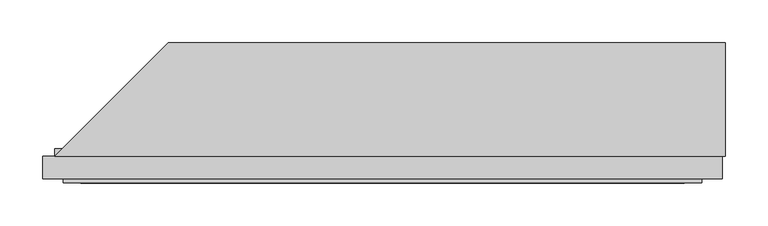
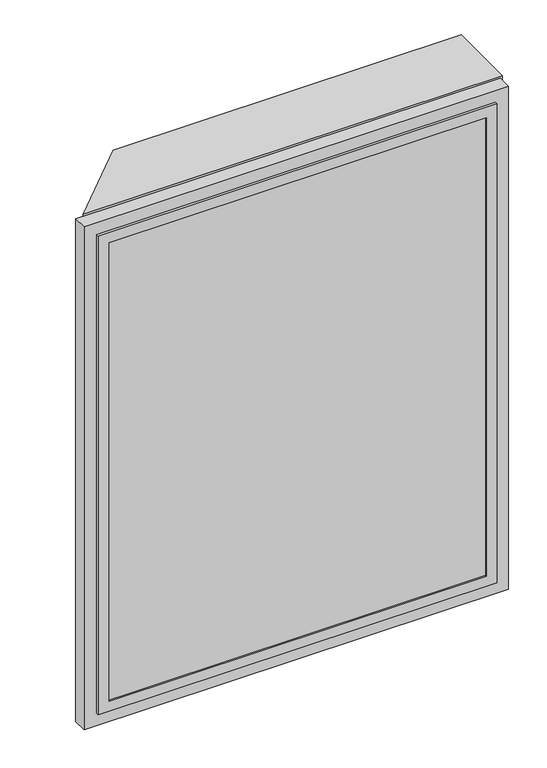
"""IFC4 building model written with IfcOpenShell, lengths in millimetres: plate geometry, SCISSOR PANEL : SCISSOR PANEL."""

from ifc_helpers import new_model, si_unit, frame, origin, place, context, project, spatial, polyline, outline, extrude, faceted_brep, source, transform, mapped, element, save


def plate_240e5154(model_context):
    return source(origin(), model_context, "Body", "SolidModel", [
        faceted_brep([(400.0, -132.5, 1000.0), (-382.5, -132.5, 1000.0), (-382.5, -132.5, 982.5), (382.5, -132.5, 982.5), (382.5, -132.5, 17.5), (-382.5, -132.5, 17.5), (-382.5, -132.5, 0.0), (400.0, -132.5, 0.0), (382.5, 0.0, 17.5), (382.5, 0.0, 982.5), (-250.0, 0.0, 0.0), (-250.0, 0.0, 17.5), (-250.0, 0.0, 982.5), (-250.0, 0.0, 1000.0), (400.0, 0.0, 0.0), (400.0, 0.0, 1000.0)], [[[0, 1, 2, 3, 4, 5, 6, 7]], [[8, 4, 3, 9]], [[10, 6, 5, 11]], [[12, 2, 1, 13]], [[14, 10, 11, 8, 9, 12, 13, 15]], [[7, 6, 10, 14]], [[15, 0, 7, 14]], [[15, 13, 1, 0]], [[2, 12, 9, 3]], [[4, 8, 11, 5]]]),
        extrude(outline(polyline([(-369.5, -160.5), (-369.5, -135.5), (369.5, -135.5), (369.5, -160.5), (-369.5, -160.5)])), frame((0.0, 0.0, 30.5), z_axis=(0.0, 0.0, 1.0), x_axis=(1.0, 0.0, 0.0)), (0.0, 0.0, 1.0), 939.0),
        faceted_brep([(-352.5, -135.5, 952.5), (-352.5, -135.5, 47.5), (-352.5, -132.5, 47.5), (-352.5, -132.5, 952.5), (-369.5, -160.5, 969.5), (-369.5, -160.5, 30.5), (-369.5, -135.5, 30.5), (-369.5, -135.5, 969.5), (-352.5, -163.5, 952.5), (-352.5, -163.5, 47.5), (-352.5, -160.5, 47.5), (-352.5, -160.5, 952.5), (-372.5, -132.5, 972.5), (-372.5, -132.5, 27.5), (-372.5, -163.5, 27.5), (-372.5, -163.5, 972.5), (352.5, -135.5, 47.5), (352.5, -132.5, 47.5), (369.5, -160.5, 30.5), (369.5, -135.5, 30.5), (352.5, -163.5, 47.5), (352.5, -160.5, 47.5), (372.5, -132.5, 27.5), (372.5, -163.5, 27.5), (352.5, -135.5, 952.5), (352.5, -132.5, 952.5), (369.5, -160.5, 969.5), (369.5, -135.5, 969.5), (352.5, -163.5, 952.5), (352.5, -160.5, 952.5), (372.5, -132.5, 972.5), (372.5, -163.5, 972.5)], [[[0, 1, 2, 3]], [[4, 5, 6, 7]], [[8, 9, 10, 11]], [[12, 13, 14, 15]], [[1, 16, 17, 2]], [[5, 18, 19, 6]], [[9, 20, 21, 10]], [[13, 22, 23, 14]], [[16, 24, 25, 17]], [[18, 26, 27, 19]], [[20, 28, 29, 21]], [[22, 30, 31, 23]], [[13, 12, 30, 22], [3, 2, 17, 25]], [[24, 0, 3, 25]], [[7, 6, 19, 27], [1, 0, 24, 16]], [[26, 4, 7, 27]], [[5, 4, 26, 18], [11, 10, 21, 29]], [[28, 8, 11, 29]], [[15, 14, 23, 31], [9, 8, 28, 20]], [[30, 12, 15, 31]]]),
        faceted_brep([(-396.5, -132.5, 996.5), (-396.5, -132.5, 3.5), (-396.5, -158.75, 3.5), (-396.5, -158.75, 996.5), (-389.5, -150.0, 989.5), (-389.5, -150.0, 10.5), (-389.5, -132.5, 10.5), (-389.5, -132.5, 989.5), (-382.5, -123.75, 982.5), (-382.5, -123.75, 17.5), (-382.5, -150.0, 17.5), (-382.5, -150.0, 982.5), (-372.5, -158.75, 972.5), (-372.5, -158.75, 27.5), (-372.5, -123.75, 27.5), (-372.5, -123.75, 972.5), (396.5, -132.5, 3.5), (396.5, -158.75, 3.5), (389.5, -150.0, 10.5), (389.5, -132.5, 10.5), (382.5, -123.75, 17.5), (382.5, -150.0, 17.5), (372.5, -158.75, 27.5), (372.5, -123.75, 27.5), (396.5, -132.5, 996.5), (396.5, -158.75, 996.5), (389.5, -150.0, 989.5), (389.5, -132.5, 989.5), (382.5, -123.75, 982.5), (382.5, -150.0, 982.5), (372.5, -158.75, 972.5), (372.5, -123.75, 972.5)], [[[0, 1, 2, 3]], [[4, 5, 6, 7]], [[8, 9, 10, 11]], [[12, 13, 14, 15]], [[1, 16, 17, 2]], [[5, 18, 19, 6]], [[9, 20, 21, 10]], [[13, 22, 23, 14]], [[16, 24, 25, 17]], [[18, 26, 27, 19]], [[20, 28, 29, 21]], [[22, 30, 31, 23]], [[24, 0, 3, 25]], [[1, 0, 24, 16], [7, 6, 19, 27]], [[26, 4, 7, 27]], [[5, 4, 26, 18], [11, 10, 21, 29]], [[28, 8, 11, 29]], [[9, 8, 28, 20], [15, 14, 23, 31]], [[30, 12, 15, 31]], [[3, 2, 17, 25], [13, 12, 30, 22]]]),
        extrude(outline(polyline([(989.5, -389.5), (10.5, -389.5), (10.5, 389.5), (989.5, 389.5), (989.5, -389.5)]), holes=[polyline([(982.5, -382.5), (982.5, 382.5), (17.5, 382.5), (17.5, -382.5), (982.5, -382.5)])]), frame((0.0, -150.0, 0.0), z_axis=(0.0, 1.0, 0.0), x_axis=(0.0, 0.0, 1.0)), (0.0, 0.0, 1.0), 17.5),
    ])


if __name__ == "__main__":
    model = new_model("IFC4")
    model_context = context("Model", 3, world=origin())
    ifc_project = project(units=[si_unit("LENGTHUNIT", "METRE", prefix="MILLI")], contexts=[model_context])
    site = spatial("IfcSite", under=ifc_project)
    building = spatial("IfcBuilding", under=site)
    placement = place(None, origin())
    plate_shape = plate_240e5154(model_context)
    element("IfcPlate", 1, ObjectType="SCISSOR PANEL : SCISSOR PANEL", at=placement, inside=building, context=model_context, shape_type="MappedRepresentation", body=[
        mapped(plate_shape, transform((0.0, 0.0, 0.0), x_axis=(1.0, 0.0, 0.0), y_axis=(0.0, 1.0, 0.0), z_axis=(0.0, 0.0, 1.0))),
    ])
    save(model, "model.ifc")
